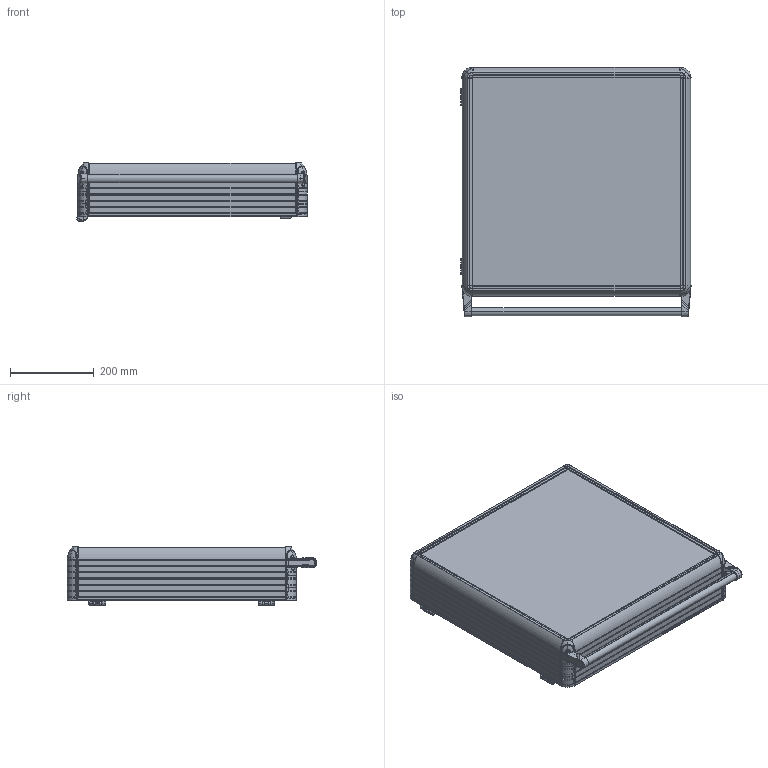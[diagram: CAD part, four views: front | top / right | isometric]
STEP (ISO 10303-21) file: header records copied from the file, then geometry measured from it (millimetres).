
FILE_DESCRIPTION (( 'STEP AP214' ), '1' );
FILE_NAME ('1200-0112.STEP', '2022-09-01T07:57:35', ( '' ), ( '' ), 'SwSTEP 2.0', 'SolidWorks 2022', '' );
FILE_SCHEMA (( 'AUTOMOTIVE_DESIGN' ));
Length unit declared in the file: millimetre
Products named in the file (8): 1200-0112; ECO1200-0100(SAÐ); HPECO-120-001-295_495; ECO1200-0100(SOL); 500X500; ARKA_KAPAK_500X500; ECO1200-0000; boru_525
Assembly tree (11 placements, depth 2):
  1200-0112
    500X500
    ARKA_KAPAK_500X500
    ECO1200-0000  x2
    boru_525
    ECO1200-0100(SAÐ)
    ECO1200-0100(SOL)
    HPECO-120-001-295_495  x4
Bounding box: 549.03 x 595.81 x 139.15 mm (x, y, z)
Volume: 5228001.4 mm3; surface area: 1974045.7 mm2
Topology: 16 solids, 73 shells, 6366 faces, 17195 edges, 10724 vertices
Faces by surface type: plane 2576, cylinder 1650, bspline 1218, cone 582, torus 294, sphere 46
Entity records: 246990 total; most frequent: CARTESIAN_POINT 68947, ORIENTED_EDGE 28370, DIRECTION 22600, EDGE_CURVE 14185, VERTEX_POINT 8853, AXIS2_PLACEMENT_3D 8125, LINE 6350, VECTOR 6350
